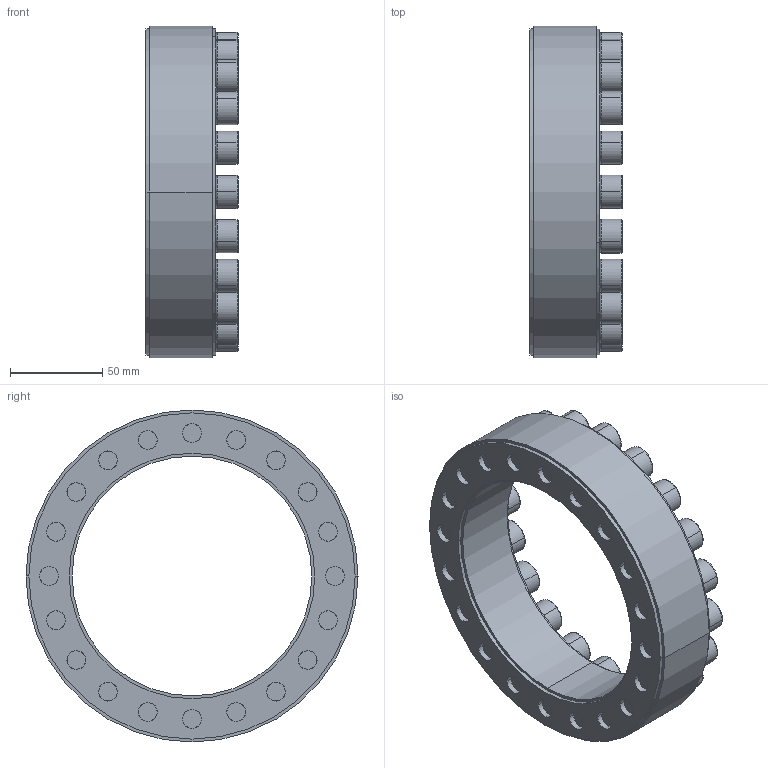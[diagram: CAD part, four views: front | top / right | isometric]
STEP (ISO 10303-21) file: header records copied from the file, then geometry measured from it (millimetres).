
FILE_DESCRIPTION (( 'STEP AP203' ), '1' );
FILE_NAME ('SAPL-D1-130-180.STEP', '2018-12-14T23:37:17', ( '' ), ( '' ), 'SwSTEP 2.0', 'SolidWorks 2015', '' );
FILE_SCHEMA (( 'CONFIG_CONTROL_DESIGN' ));
Length unit declared in the file: millimetre
Products named in the file (1): SAPL-D1-130-180
Bounding box: 50 x 180 x 180 mm (x, y, z)
Surface area: 125930.1 mm2 (no closed solid volume)
Topology: 0 solids, 44 shells, 512 faces, 1272 edges, 780 vertices
Faces by surface type: plane 264, cylinder 128, torus 80, cone 40
Entity records: 15108 total; most frequent: DIRECTION 2906, CARTESIAN_POINT 2557, ORIENTED_EDGE 2260, EDGE_CURVE 1264, AXIS2_PLACEMENT_3D 1129, VERTEX_POINT 780, LINE 648, VECTOR 648
